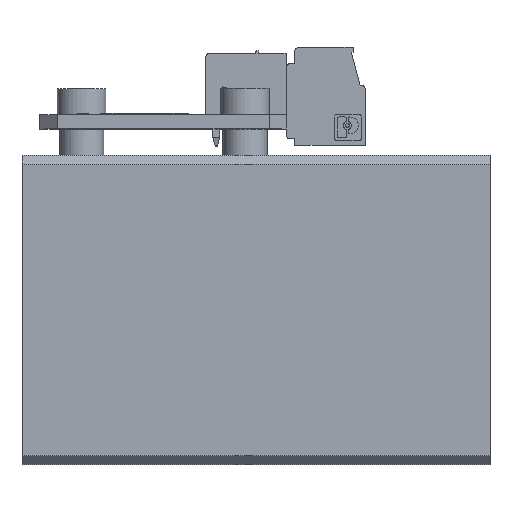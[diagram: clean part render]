
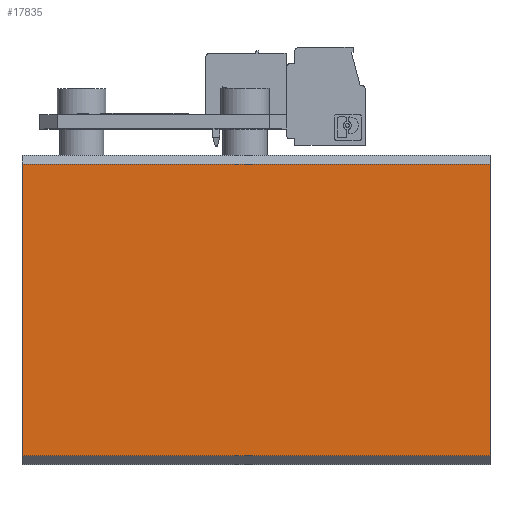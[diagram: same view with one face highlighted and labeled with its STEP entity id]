
A CAD part, top view. The second image highlights one B-rep face of the part: STEP entity #17835.
In plain terms, the highlighted planar face has unit normal (0, 0, 1).
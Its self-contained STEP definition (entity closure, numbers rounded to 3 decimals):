
#204 = EDGE_CURVE ( 'NONE', #12695, #7453, #1951, .T. ) ;
#1292 = ORIENTED_EDGE ( 'NONE', *, *, #204, .T. ) ;
#1951 = LINE ( 'NONE', #14439, #22818 ) ;
#3740 = DIRECTION ( 'NONE',  ( 0., -1., 0. ) ) ;
#4509 = CARTESIAN_POINT ( 'NONE',  ( 0., -16.5, 17.5 ) ) ;
#5204 = AXIS2_PLACEMENT_3D ( 'NONE', #20685, #8157, #22767 ) ;
#7024 = LINE ( 'NONE', #12632, #15537 ) ;
#7453 = VERTEX_POINT ( 'NONE', #4509 ) ;
#8157 = DIRECTION ( 'NONE',  ( 0., 0., -1. ) ) ;
#9714 = ORIENTED_EDGE ( 'NONE', *, *, #20078, .T. ) ;
#11511 = EDGE_LOOP ( 'NONE', ( #1292, #18968, #19042, #9714 ) ) ;
#12564 = LINE ( 'NONE', #22156, #17426 ) ;
#12632 = CARTESIAN_POINT ( 'NONE',  ( 53., -17.5, 17.5 ) ) ;
#12695 = VERTEX_POINT ( 'NONE', #19800 ) ;
#13972 = VECTOR ( 'NONE', #24667, 1000. ) ;
#14439 = CARTESIAN_POINT ( 'NONE',  ( 0., -17.5, 17.5 ) ) ;
#15537 = VECTOR ( 'NONE', #25047, 1000. ) ;
#15624 = FACE_OUTER_BOUND ( 'NONE', #11511, .T. ) ;
#16424 = PLANE ( 'NONE',  #5204 ) ;
#16905 = VERTEX_POINT ( 'NONE', #23653 ) ;
#17426 = VECTOR ( 'NONE', #20072, 1000. ) ;
#17835 = ADVANCED_FACE ( 'NONE', ( #15624 ), #16424, .F. ) ;
#17994 = VERTEX_POINT ( 'NONE', #25659 ) ;
#18968 = ORIENTED_EDGE ( 'NONE', *, *, #26613, .T. ) ;
#19042 = ORIENTED_EDGE ( 'NONE', *, *, #26291, .F. ) ;
#19800 = CARTESIAN_POINT ( 'NONE',  ( 0., 16.5, 17.5 ) ) ;
#20072 = DIRECTION ( 'NONE',  ( 1., 0., 0. ) ) ;
#20078 = EDGE_CURVE ( 'NONE', #16905, #12695, #24991, .T. ) ;
#20685 = CARTESIAN_POINT ( 'NONE',  ( 53., -17.5, 17.5 ) ) ;
#22156 = CARTESIAN_POINT ( 'NONE',  ( 53., -16.5, 17.5 ) ) ;
#22612 = CARTESIAN_POINT ( 'NONE',  ( 53., 16.5, 17.5 ) ) ;
#22767 = DIRECTION ( 'NONE',  ( -1., 0., 0. ) ) ;
#22818 = VECTOR ( 'NONE', #3740, 1000. ) ;
#23653 = CARTESIAN_POINT ( 'NONE',  ( 53., 16.5, 17.5 ) ) ;
#24667 = DIRECTION ( 'NONE',  ( -1., 0., 0. ) ) ;
#24991 = LINE ( 'NONE', #22612, #13972 ) ;
#25047 = DIRECTION ( 'NONE',  ( 0., -1., 0. ) ) ;
#25659 = CARTESIAN_POINT ( 'NONE',  ( 53., -16.5, 17.5 ) ) ;
#26291 = EDGE_CURVE ( 'NONE', #16905, #17994, #7024, .T. ) ;
#26613 = EDGE_CURVE ( 'NONE', #7453, #17994, #12564, .T. ) ;
